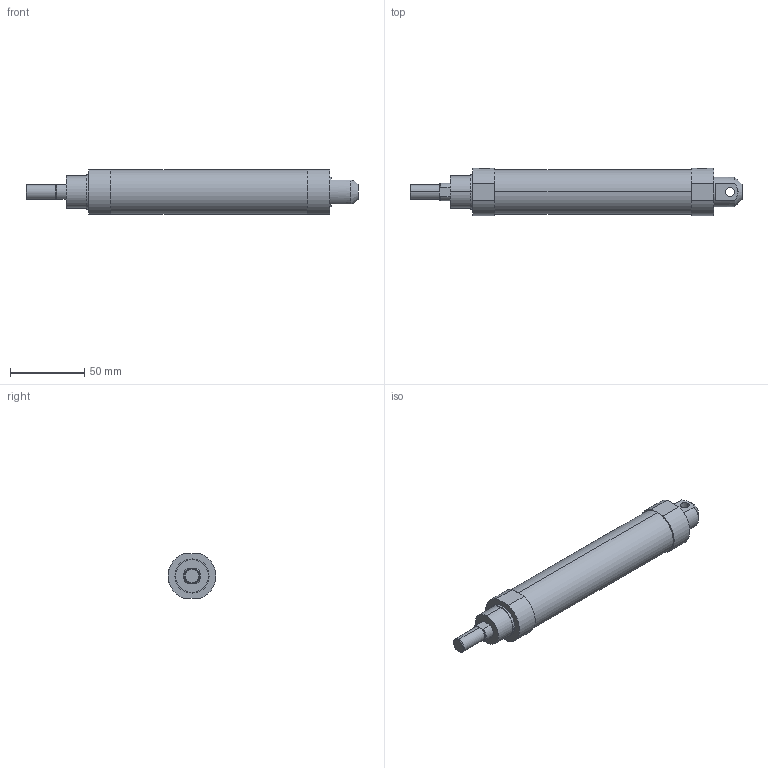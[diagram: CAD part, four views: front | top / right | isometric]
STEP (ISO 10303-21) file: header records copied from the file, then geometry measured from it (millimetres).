
FILE_DESCRIPTION (( 'STEP AP203' ), '1' );
FILE_NAME ('J#2-25-100-C.STEP', '2016-03-08T07:15:05', ( '' ), ( '' ), 'SwSTEP 2.0', 'SolidWorks 2014', '' );
FILE_SCHEMA (( 'CONFIG_CONTROL_DESIGN' ));
Length unit declared in the file: millimetre
Products named in the file (1): J#2-25-100-C
Bounding box: 223 x 32 x 30 mm (x, y, z)
Volume: 127693.9 mm3; surface area: 21140.9 mm2
Topology: 1 solids, 1 shells, 52 faces, 118 edges, 74 vertices
Faces by surface type: plane 24, cylinder 22, cone 6
Entity records: 1701 total; most frequent: CARTESIAN_POINT 429, DIRECTION 262, ORIENTED_EDGE 236, EDGE_CURVE 118, AXIS2_PLACEMENT_3D 103, VERTEX_POINT 74, EDGE_LOOP 60, LINE 56
